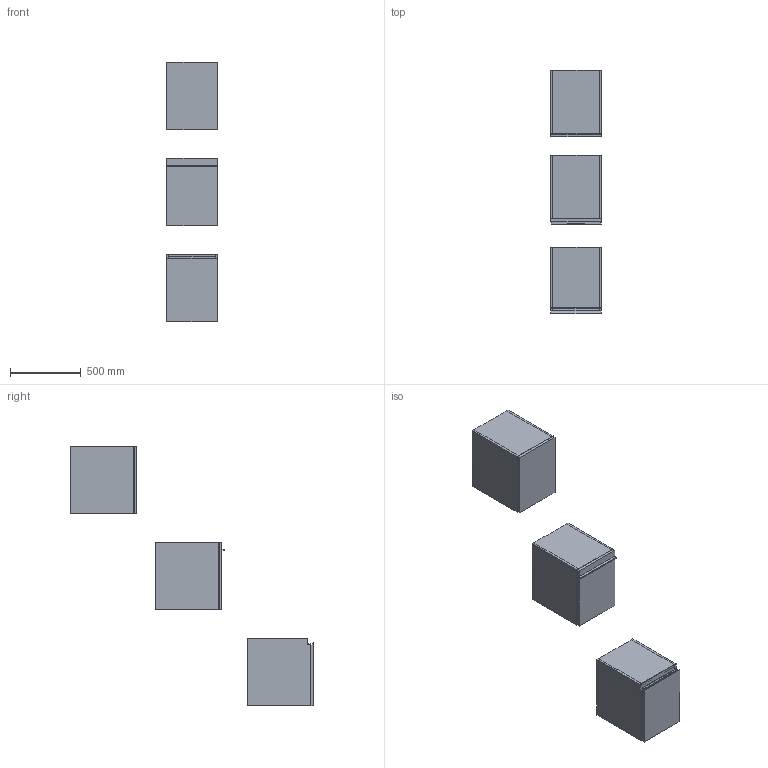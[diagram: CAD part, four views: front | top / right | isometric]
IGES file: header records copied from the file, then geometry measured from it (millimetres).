
Start section: Data from Parasolid IGES Translator 19.0.9, Copyright(c) 2006 Siemens PL M Software. All Rights Reserved.
Global section: file name: noorth-SI-H 48 D 47 W 36_8474.igs; native system: By Siemens PLM Incorporated; preprocessor: XPlus GENERIC/IGES 19.0.9; author: Noname; organization: Noname; date: 20200601.105443; units: metre
Bounding box: 360 x 1719.1 x 1840.01 mm (x, y, z)
Volume: 45560495.7 mm3; surface area: 6714943.4 mm2
Topology: 20 solids, 20 shells, 178 faces, 382 edges, 234 vertices
Faces by surface type: plane 134, extrusion 16, bspline 16, cylinder 12
